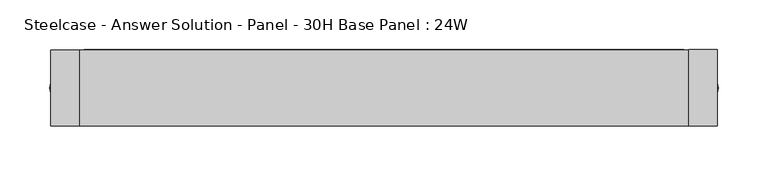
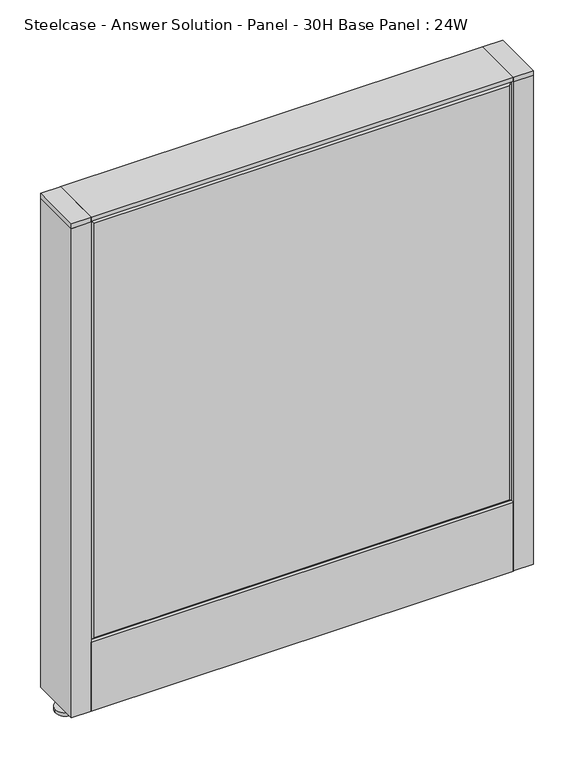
"""IFC4 building model written with IfcOpenShell, lengths in millimetres: furniture geometry, Steelcase - Answer Solution - Panel - 30H Base Panel : 24W."""

from ifc_helpers import new_model, si_unit, point, frame, frame_2d, origin, place, context, project, spatial, polyline, circle_curve, trimmed, segment, composite_curve, outline, extrude, faceted_brep, source, transform, mapped, element, save


def steelcase_answer_solution_panel_30h_base_panel_24w_0f9d09e1(model_context):
    return source(origin(), model_context, "Body", "SolidModel", [
        extrude(outline(composite_curve([segment(trimmed(circle_curve(frame_2d((319.024, 0.0320214)), 5.08), [point((324.104, 0.0320214))], [point((313.944, 0.0320214))], False, "CARTESIAN"), True, "CONTINUOUS"), segment(trimmed(circle_curve(frame_2d((319.024, 0.0320214)), 5.08), [point((313.944, 0.0320214))], [point((324.104, 0.0320214))], False, "CARTESIAN"), True, "CONTINUOUS")], self_intersect=False)), frame((0.0, 0.0, 5.0799671), z_axis=(0.0, 0.0, 1.0), x_axis=(1.0, 0.0, 0.0)), (0.0, 0.0, 1.0), 10.414),
        extrude(outline(composite_curve([segment(trimmed(circle_curve(frame_2d((319.024, 0.0320214)), 15.24), [point((334.264, 0.0320214))], [point((303.784, 0.0320214))], False, "CARTESIAN"), True, "CONTINUOUS"), segment(trimmed(circle_curve(frame_2d((319.024, 0.0320214)), 15.24), [point((303.784, 0.0320214))], [point((334.264, 0.0320214))], False, "CARTESIAN"), True, "CONTINUOUS")], self_intersect=False)), frame((0.0, 0.0, -3.29e-05), z_axis=(0.0, 0.0, 1.0), x_axis=(1.0, 0.0, 0.0)), (0.0, 0.0, 1.0), 5.08),
        extrude(outline(polyline([(333.375, 38.1320408), (333.375, -38.0679592), (304.8, -38.0679592), (304.8, 38.1320408), (333.375, 38.1320408)])), frame((0.0, 0.0, 761.0348), z_axis=(0.0, 0.0, 1.0), x_axis=(1.0, 0.0, 0.0)), (0.0, 0.0, 1.0), 7.3151671),
        extrude(outline(polyline([(333.375, 38.1320408), (333.375, -38.0679592), (304.8, -38.0679592), (304.8, 38.1320408), (333.375, 38.1320408)])), frame((0.0, 0.0, 15.4939671), z_axis=(0.0, 0.0, 1.0), x_axis=(1.0, 0.0, 0.0)), (0.0, 0.0, 1.0), 745.5408329),
        extrude(outline(composite_curve([segment(trimmed(circle_curve(frame_2d((-319.024, -0.0320214)), 5.08), [point((-324.104, -0.0320214))], [point((-313.944, -0.0320214))], False, "CARTESIAN"), True, "CONTINUOUS"), segment(trimmed(circle_curve(frame_2d((-319.024, -0.0320214)), 5.08), [point((-313.944, -0.0320214))], [point((-324.104, -0.0320214))], False, "CARTESIAN"), True, "CONTINUOUS")], self_intersect=False)), frame((0.0, 0.0, 5.0799671), z_axis=(0.0, 0.0, 1.0), x_axis=(1.0, 0.0, 0.0)), (0.0, 0.0, 1.0), 10.414),
        extrude(outline(composite_curve([segment(trimmed(circle_curve(frame_2d((-319.024, -0.0320214)), 15.24), [point((-334.264, -0.0320214))], [point((-303.784, -0.0320214))], False, "CARTESIAN"), True, "CONTINUOUS"), segment(trimmed(circle_curve(frame_2d((-319.024, -0.0320214)), 15.24), [point((-303.784, -0.0320214))], [point((-334.264, -0.0320214))], False, "CARTESIAN"), True, "CONTINUOUS")], self_intersect=False)), frame((0.0, 0.0, -3.29e-05), z_axis=(0.0, 0.0, 1.0), x_axis=(1.0, 0.0, 0.0)), (0.0, 0.0, 1.0), 5.08),
        extrude(outline(polyline([(-333.375, -38.1320408), (-333.375, 38.0679592), (-304.8, 38.0679592), (-304.8, -38.1320408), (-333.375, -38.1320408)])), frame((0.0, 0.0, 761.0348), z_axis=(0.0, 0.0, 1.0), x_axis=(1.0, 0.0, 0.0)), (0.0, 0.0, 1.0), 7.3151671),
        extrude(outline(polyline([(-333.375, -38.1320408), (-333.375, 38.0679592), (-304.8, 38.0679592), (-304.8, -38.1320408), (-333.375, -38.1320408)])), frame((0.0, 0.0, 15.4939671), z_axis=(0.0, 0.0, 1.0), x_axis=(1.0, 0.0, 0.0)), (0.0, 0.0, 1.0), 745.5408329),
        faceted_brep([(299.974, 38.1635011, 757.174), (299.974, 38.1635011, 125.476), (-299.974, 38.1635011, 125.476), (-299.974, 38.1635011, 757.174), (304.8, 33.3375011, 762.0), (-304.8, 33.3375011, 762.0), (-304.8, 33.3375011, 120.65), (304.8, 33.3375011, 120.65)], [[[0, 1, 2, 3]], [[4, 5, 6, 7]], [[4, 0, 3, 5]], [[5, 3, 2, 6]], [[6, 2, 1, 7]], [[7, 1, 0, 4]]]),
        faceted_brep([(299.974, -38.1635011, 757.174), (-299.974, -38.1635011, 757.174), (-299.974, -38.1635011, 125.476), (299.974, -38.1635011, 125.476), (304.8, -33.3375011, 762.0), (304.8, -33.3375011, 120.65), (-304.8, -33.3375011, 120.65), (-304.8, -33.3375011, 762.0)], [[[0, 1, 2, 3]], [[4, 5, 6, 7]], [[4, 7, 1, 0]], [[7, 6, 2, 1]], [[6, 5, 3, 2]], [[5, 4, 0, 3]]]),
        extrude(outline(polyline([(304.8, 38.1000194), (304.8, -38.1000194), (-304.8, -38.1000194), (-304.8, 38.1000194), (304.8, 38.1000194)])), frame((0.0, 0.0, 762.0), z_axis=(0.0, 0.0, 1.0), x_axis=(1.0, 0.0, 0.0)), (0.0, 0.0, 1.0), 6.35),
        extrude(outline(polyline([(37.3075215, 119.8575157), (25.4000011, 119.8575157), (25.4000011, 120.65), (38.1000194, 120.65), (38.1000194, 15.494), (37.3075215, 15.494), (37.3075215, 119.8575157)])), frame((-304.8, 0.0, 0.0), z_axis=(1.0, 0.0, 0.0), x_axis=(0.0, 1.0, 0.0)), (0.0, 0.0, 1.0), 609.6),
        extrude(outline(polyline([(-37.3075215, 119.8575157), (-37.3075215, 15.494), (-38.1000194, 15.494), (-38.1000194, 120.65), (-25.4000011, 120.65), (-25.4000011, 119.8575157), (-37.3075215, 119.8575157)])), frame((-304.8, 0.0, 0.0), z_axis=(1.0, 0.0, 0.0), x_axis=(0.0, 1.0, 0.0)), (0.0, 0.0, 1.0), 609.6),
    ])


if __name__ == "__main__":
    model = new_model("IFC4")
    model_context = context("Model", 3, world=origin())
    ifc_project = project(units=[si_unit("LENGTHUNIT", "METRE", prefix="MILLI")], contexts=[model_context])
    site = spatial("IfcSite", under=ifc_project)
    building = spatial("IfcBuilding", under=site)
    placement = place(None, origin())
    steelcase_answer_solution_panel_30h_base_panel_24w_shape = steelcase_answer_solution_panel_30h_base_panel_24w_0f9d09e1(model_context)
    element("IfcFurniture", 1, ObjectType="Steelcase - Answer Solution - Panel - 30H Base Panel : 24W", at=placement, inside=building, context=model_context, shape_type="MappedRepresentation", body=[
        mapped(steelcase_answer_solution_panel_30h_base_panel_24w_shape, transform((0.0, 0.0, 0.0), x_axis=(1.0, 0.0, 0.0), y_axis=(0.0, 1.0, 0.0), z_axis=(0.0, 0.0, 1.0))),
    ])
    save(model, "model.ifc")
